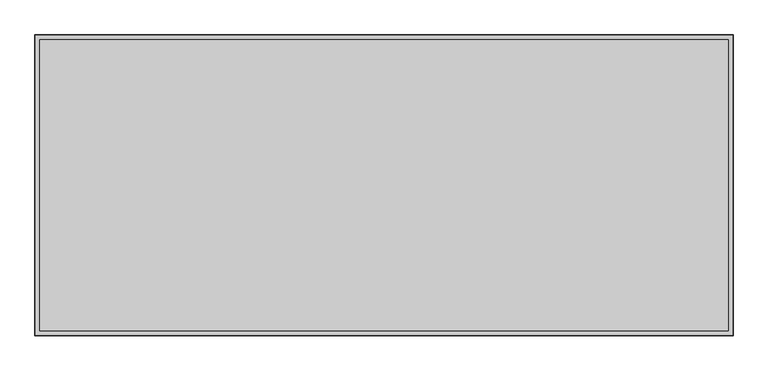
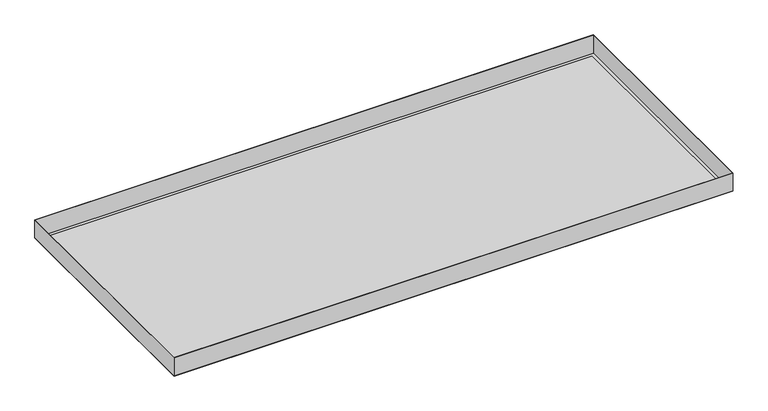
"""IFC4 building model written with IfcOpenShell, lengths in millimetres: proxy geometry, durlum_S-OM-40 : durlum_S-OM-40_panel_wall_width_cut."""

from ifc_helpers import new_model, si_unit, frame, origin, origin_with_axes, place, context, project, spatial, polyline, outline, extrude, source, transform, mapped, element, save


def generic_models_9b3707d3(model_context):
    return source(origin(), model_context, "Body", "SweptSolid", [
        extrude(outline(polyline([(579.0, 249.5), (579.0, -249.5), (-579.0, -249.5), (-579.0, 249.5), (579.0, 249.5)]), holes=[polyline([(578.4, 248.9), (-578.4, 248.9), (-578.4, -248.9), (578.4, -248.9), (578.4, 248.9)])]), frame((0.0, 0.0, 0.6), z_axis=(0.0, 0.0, 1.0), x_axis=(1.0, 0.0, 0.0)), (0.0, 0.0, 1.0), 39.4),
        extrude(outline(polyline([(571.0, 241.5), (571.0, -241.5), (-571.0, -241.5), (-571.0, 241.5), (571.0, 241.5)])), frame((0.0, 0.0, 0.6), z_axis=(0.0, 0.0, 1.0), x_axis=(1.0, 0.0, 0.0)), (0.0, 0.0, 1.0), 0.6),
        extrude(outline(polyline([(579.0, 249.5), (579.0, -249.5), (-579.0, -249.5), (-579.0, 249.5), (579.0, 249.5)]), holes=[polyline([(571.0, 241.5), (-571.0, 241.5), (-571.0, -241.5), (571.0, -241.5), (571.0, 241.5)])]), origin_with_axes(), (0.0, 0.0, 1.0), 0.6),
        extrude(outline(polyline([(571.0, 241.5), (571.0, -241.5), (-571.0, -241.5), (-571.0, 241.5), (571.0, 241.5)])), origin_with_axes(), (0.0, 0.0, 1.0), 0.6),
    ])


if __name__ == "__main__":
    model = new_model("IFC4")
    model_context = context("Model", 3, world=origin())
    ifc_project = project(units=[si_unit("LENGTHUNIT", "METRE", prefix="MILLI")], contexts=[model_context])
    site = spatial("IfcSite", under=ifc_project)
    building = spatial("IfcBuilding", under=site)
    placement = place(None, origin())
    generic_models_shape = generic_models_9b3707d3(model_context)
    element("IfcBuildingElementProxy", 1, Name="durlum_S-OM-40 : durlum_S-OM-40_panel_wall_width_cut", ObjectType="durlum_S-OM-40 : durlum_S-OM-40_panel_wall_width_cut", at=placement, inside=building, context=model_context, shape_type="MappedRepresentation", body=[
        mapped(generic_models_shape, transform((0.0, 0.0, 0.0), x_axis=(1.0, 0.0, 0.0), y_axis=(0.0, 1.0, 0.0), z_axis=(0.0, 0.0, 1.0))),
    ])
    save(model, "model.ifc")
